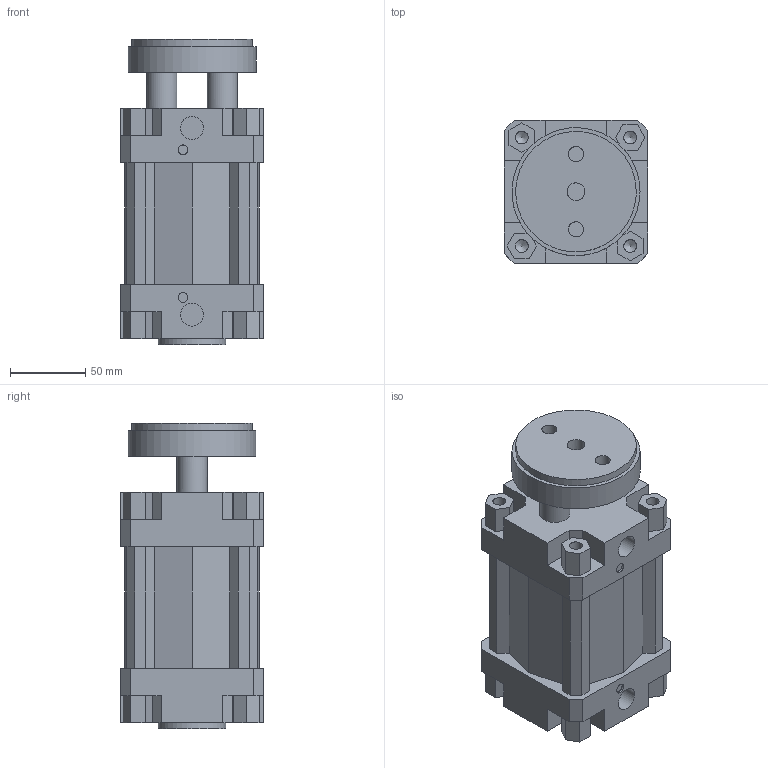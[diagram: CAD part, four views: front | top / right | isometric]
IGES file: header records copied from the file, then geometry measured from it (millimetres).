
Global section: file name: 132#_080_0025_01; native system: Autodesk Inventor 2014; preprocessor: unknown; author: A. Manieri; date: 20161006.162258; units: millimetre
Bounding box: 95 x 95 x 203 mm (x, y, z)
Volume: 1151447.2 mm3; surface area: 179087.8 mm2
Topology: 2 solids, 2 shells, 180 faces, 491 edges, 335 vertices
Faces by surface type: bspline 180
